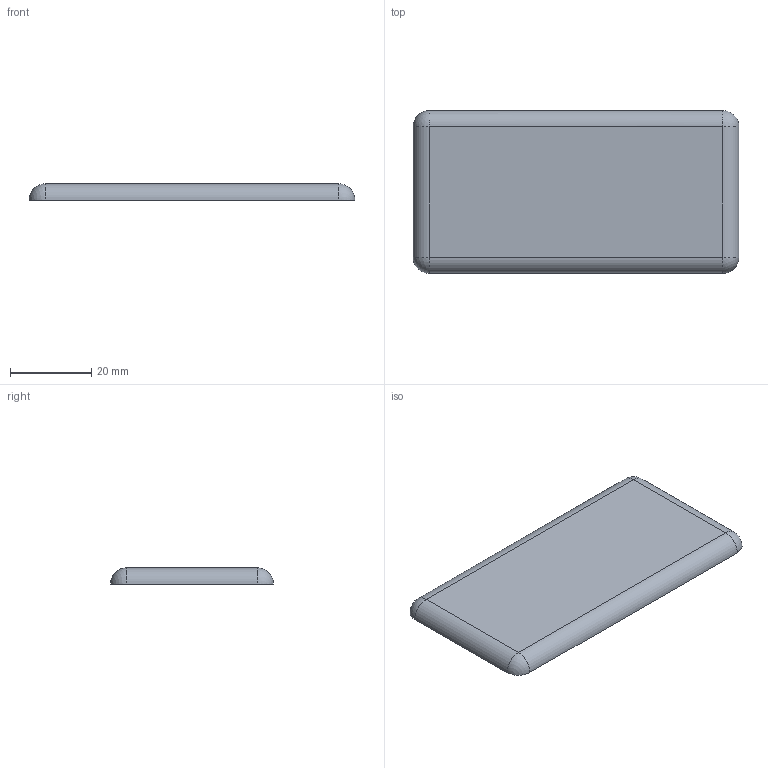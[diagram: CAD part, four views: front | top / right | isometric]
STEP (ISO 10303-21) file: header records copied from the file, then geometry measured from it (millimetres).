
FILE_DESCRIPTION (( 'STEP AP214' ), '1' );
FILE_NAME ('Transept Giltec-AK880X40.STEP', '2015-05-13T08:06:03', ( 'Windows User' ), ( '' ), 'SwSTEP 2.0', 'SolidWorks 2015', '' );
FILE_SCHEMA (( 'AUTOMOTIVE_DESIGN' ));
Length unit declared in the file: millimetre
Products named in the file (1): Transept Giltec-AK880X40
Bounding box: 80 x 40 x 4 mm (x, y, z)
Volume: 11963.8 mm3; surface area: 6897.7 mm2
Topology: 1 solids, 1 shells, 10 faces, 28 edges, 16 vertices
Faces by surface type: sphere 4, cylinder 4, plane 2
Entity records: 323 total; most frequent: CARTESIAN_POINT 74, DIRECTION 50, ORIENTED_EDGE 40, AXIS2_PLACEMENT_3D 21, EDGE_CURVE 20, VERTEX_POINT 12, EDGE_LOOP 10, ADVANCED_FACE 10
